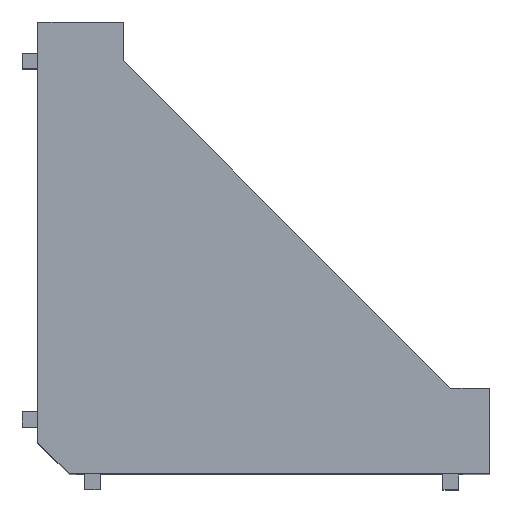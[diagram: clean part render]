
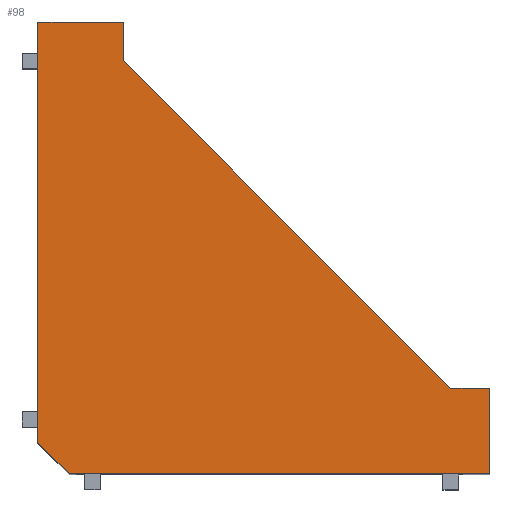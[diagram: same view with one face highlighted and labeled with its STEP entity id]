
A CAD part, top view. The second image highlights one B-rep face of the part: STEP entity #98.
In plain terms, the highlighted planar face has unit normal (0, 0, 1).
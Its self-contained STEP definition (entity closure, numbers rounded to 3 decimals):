
#98 = ADVANCED_FACE ( 'NONE', ( #1669 ), #3980, .F. ) ;
#133 = CARTESIAN_POINT ( 'NONE',  ( 11., 58., 29. ) ) ;
#159 = VECTOR ( 'NONE', #288, 1000. ) ;
#194 = ORIENTED_EDGE ( 'NONE', *, *, #3512, .T. ) ;
#212 = DIRECTION ( 'NONE',  ( -0.707, 0.707, 0. ) ) ;
#257 = DIRECTION ( 'NONE',  ( -1., 0., 0. ) ) ;
#288 = DIRECTION ( 'NONE',  ( 0.707, -0.707, 0. ) ) ;
#351 = CARTESIAN_POINT ( 'NONE',  ( 58., 0., 29. ) ) ;
#352 = DIRECTION ( 'NONE',  ( -1., 0., 0. ) ) ;
#394 = ORIENTED_EDGE ( 'NONE', *, *, #545, .T. ) ;
#436 = LINE ( 'NONE', #3997, #791 ) ;
#493 = EDGE_LOOP ( 'NONE', ( #3542, #2798, #194, #1002, #3836, #1835, #394, #1826 ) ) ;
#545 = EDGE_CURVE ( 'NONE', #2713, #1445, #436, .T. ) ;
#639 = CARTESIAN_POINT ( 'NONE',  ( 11., 53., 29. ) ) ;
#678 = CARTESIAN_POINT ( 'NONE',  ( 53., 11., 29. ) ) ;
#707 = CARTESIAN_POINT ( 'NONE',  ( 0., 4., 29. ) ) ;
#733 = DIRECTION ( 'NONE',  ( 0., -1., 0. ) ) ;
#774 = CARTESIAN_POINT ( 'NONE',  ( 0., 58., 29. ) ) ;
#791 = VECTOR ( 'NONE', #3624, 1000. ) ;
#1002 = ORIENTED_EDGE ( 'NONE', *, *, #3803, .T. ) ;
#1061 = LINE ( 'NONE', #639, #1316 ) ;
#1069 = EDGE_CURVE ( 'NONE', #1445, #3196, #1206, .T. ) ;
#1105 = EDGE_CURVE ( 'NONE', #1934, #3258, #2783, .T. ) ;
#1135 = LINE ( 'NONE', #707, #159 ) ;
#1167 = CARTESIAN_POINT ( 'NONE',  ( 0., 0., 29. ) ) ;
#1199 = VECTOR ( 'NONE', #2584, 1000. ) ;
#1206 = LINE ( 'NONE', #774, #3064 ) ;
#1212 = CARTESIAN_POINT ( 'NONE',  ( 11., 53., 29. ) ) ;
#1316 = VECTOR ( 'NONE', #212, 1000. ) ;
#1321 = DIRECTION ( 'NONE',  ( 1., 0., 0. ) ) ;
#1445 = VERTEX_POINT ( 'NONE', #133 ) ;
#1462 = VECTOR ( 'NONE', #1321, 1000. ) ;
#1594 = LINE ( 'NONE', #1167, #3197 ) ;
#1669 = FACE_OUTER_BOUND ( 'NONE', #493, .T. ) ;
#1749 = CARTESIAN_POINT ( 'NONE',  ( 58., 0., 29. ) ) ;
#1826 = ORIENTED_EDGE ( 'NONE', *, *, #1069, .T. ) ;
#1835 = ORIENTED_EDGE ( 'NONE', *, *, #2929, .T. ) ;
#1877 = VERTEX_POINT ( 'NONE', #2509 ) ;
#1934 = VERTEX_POINT ( 'NONE', #2305 ) ;
#1946 = VERTEX_POINT ( 'NONE', #2990 ) ;
#2094 = EDGE_CURVE ( 'NONE', #3196, #1877, #1594, .T. ) ;
#2192 = LINE ( 'NONE', #1749, #1462 ) ;
#2305 = CARTESIAN_POINT ( 'NONE',  ( 58., 11., 29. ) ) ;
#2407 = EDGE_CURVE ( 'NONE', #1877, #1946, #1135, .T. ) ;
#2509 = CARTESIAN_POINT ( 'NONE',  ( 0., 4., 29. ) ) ;
#2545 = CARTESIAN_POINT ( 'NONE',  ( 53., 11., 29. ) ) ;
#2584 = DIRECTION ( 'NONE',  ( 0., 1., 0. ) ) ;
#2713 = VERTEX_POINT ( 'NONE', #1212 ) ;
#2783 = LINE ( 'NONE', #678, #3438 ) ;
#2798 = ORIENTED_EDGE ( 'NONE', *, *, #2407, .T. ) ;
#2840 = DIRECTION ( 'NONE',  ( -1., 0., 0. ) ) ;
#2929 = EDGE_CURVE ( 'NONE', #3258, #2713, #1061, .T. ) ;
#2951 = CARTESIAN_POINT ( 'NONE',  ( 58., 5., 29. ) ) ;
#2990 = CARTESIAN_POINT ( 'NONE',  ( 4., 0., 29. ) ) ;
#3064 = VECTOR ( 'NONE', #352, 1000. ) ;
#3196 = VERTEX_POINT ( 'NONE', #3950 ) ;
#3197 = VECTOR ( 'NONE', #733, 1000. ) ;
#3209 = DIRECTION ( 'NONE',  ( 0., 0., -1. ) ) ;
#3258 = VERTEX_POINT ( 'NONE', #2545 ) ;
#3332 = LINE ( 'NONE', #2951, #1199 ) ;
#3438 = VECTOR ( 'NONE', #257, 1000. ) ;
#3462 = VERTEX_POINT ( 'NONE', #351 ) ;
#3512 = EDGE_CURVE ( 'NONE', #1946, #3462, #2192, .T. ) ;
#3542 = ORIENTED_EDGE ( 'NONE', *, *, #2094, .T. ) ;
#3605 = CARTESIAN_POINT ( 'NONE',  ( 0., 58., 29. ) ) ;
#3624 = DIRECTION ( 'NONE',  ( 0., 1., 0. ) ) ;
#3697 = AXIS2_PLACEMENT_3D ( 'NONE', #3605, #3209, #2840 ) ;
#3803 = EDGE_CURVE ( 'NONE', #3462, #1934, #3332, .T. ) ;
#3836 = ORIENTED_EDGE ( 'NONE', *, *, #1105, .T. ) ;
#3950 = CARTESIAN_POINT ( 'NONE',  ( 0., 58., 29. ) ) ;
#3980 = PLANE ( 'NONE',  #3697 ) ;
#3997 = CARTESIAN_POINT ( 'NONE',  ( 11., 58., 29. ) ) ;
